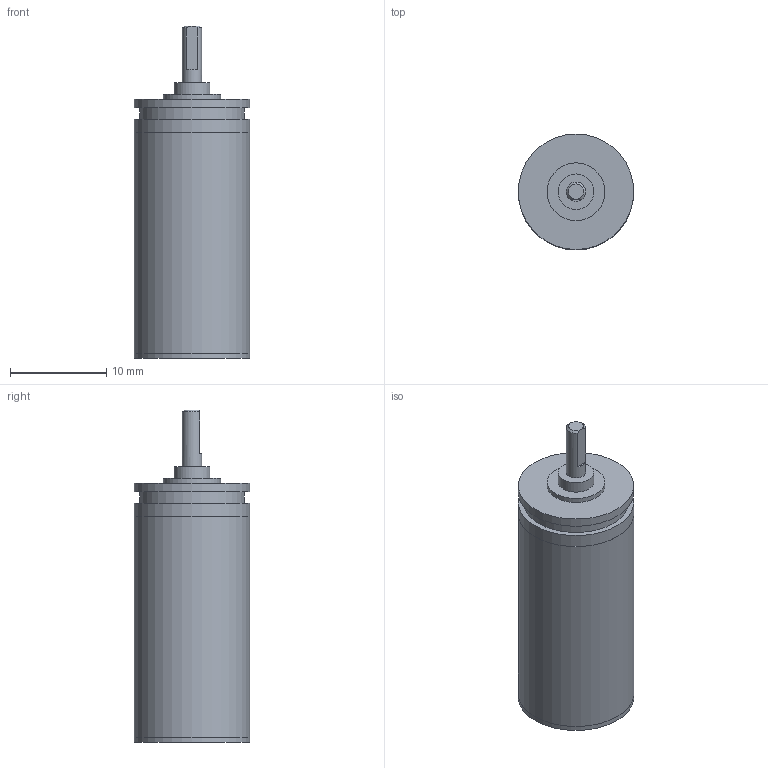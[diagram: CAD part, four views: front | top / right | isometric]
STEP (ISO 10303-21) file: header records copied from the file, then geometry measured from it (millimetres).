
FILE_DESCRIPTION(/* description */ (''),/* implementation_level */ '2;1');
FILE_NAME(/* name */ '12-3K_8.stp',/* time_stamp */ '2016-08-24T10:22:34+02:00',/* author */ ('DR. FRITZ FAULHABER GmbH & Co. KG'),/* organization */ ('DR. FRITZ FAULHABER GmbH & Co. KG'),/* preprocessor_version */ 'ST-DEVELOPER v16',/* originating_system */ 'SIEMENS PLM Software NX 10.0',/* authorisation */ '');
FILE_SCHEMA (('AUTOMOTIVE_DESIGN { 1 0 10303 214 3 1 1 1 }'));
Length unit declared in the file: millimetre
Products named in the file (1): H00000584_A
Bounding box: 12 x 12 x 34.5 mm (x, y, z)
Volume: 2991.7 mm3; surface area: 1402.5 mm2
Topology: 1 solids, 1 shells, 32 faces, 52 edges, 34 vertices
Faces by surface type: plane 16, cylinder 14, cone 2
Full cylindrical faces by diameter (mm): 2 x1, 2.48 x1, 2.6 x1, 3.7 x1, 5 x1, 6 x2, 10.88 x1, 11.99 x2, 12 x4
Entity records: 692 total; most frequent: DIRECTION 129, CARTESIAN_POINT 115, ORIENTED_EDGE 70, AXIS2_PLACEMENT_3D 63, EDGE_LOOP 59, FACE_BOUND 54, EDGE_CURVE 35, ADVANCED_FACE 32
